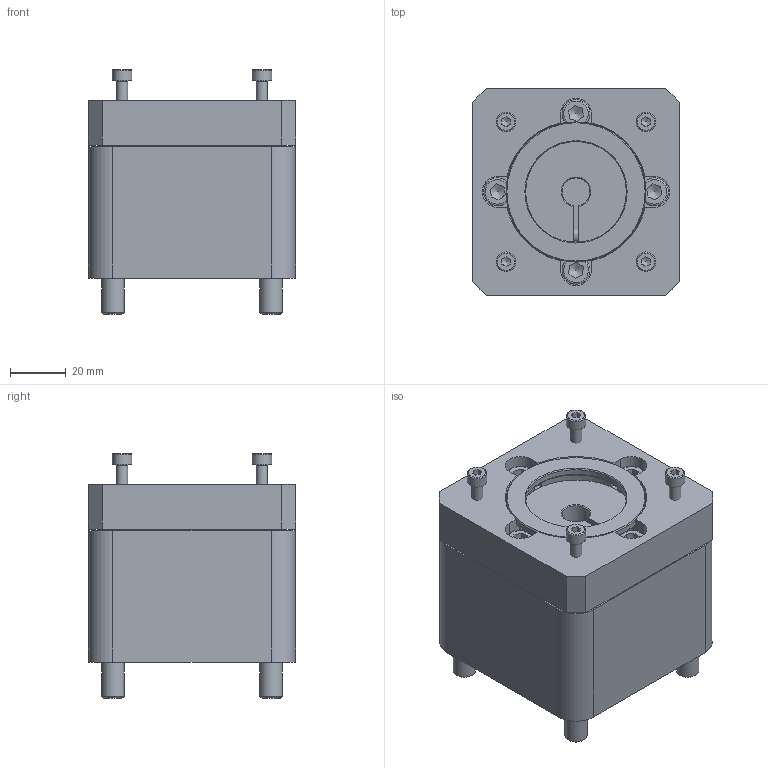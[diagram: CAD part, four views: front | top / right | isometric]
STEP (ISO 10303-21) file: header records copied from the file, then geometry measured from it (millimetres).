
FILE_DESCRIPTION(/* description */ ('EAMK-A O - Coupling housing'),/* implementation_level */ '2;1');
FILE_NAME(/* name */ 'C:\ホームページ用データ\\X2\307E305A30533053306B\X0\\J08131.stp',/* time_stamp */ '2015-04-08T14:26:56+09:00',/* author */ ('Cadenas PARTsolutions'),/* organization */ (''),/* preprocessor_version */ 'ST-DEVELOPER v15.2',/* originating_system */ 'Autodesk Inventor 2014',/* authorisation */ '');
FILE_SCHEMA (('AUTOMOTIVE_DESIGN { 1 0 10303 214 3 1 1 }'));
Length unit declared in the file: millimetre
Products named in the file (9): 552160_EAMK_A_D60_64_L51_1O_; DIN_912___M8x30_F_; 552160_EAMK_A_D60_64B; 1455666 EAMC-42-50-110-12; J08127; J08128; コピー版 JIS B 1176 - M6 x 15; コピー版 JIS B 1176 - M4 x 15; J08131
Bounding box: 74 x 74 x 87.5 mm (x, y, z)
Volume: 269504 mm3; surface area: 77647.8 mm2
Topology: 16 solids, 16 shells, 404 faces, 918 edges, 577 vertices
Faces by surface type: plane 207, cone 98, cylinder 80, torus 19
Full cylindrical faces by diameter (mm): 3.242 x4, 4 x4, 4.917 x4, 5 x4, 6 x4, 6.6 x4, 7 x4, 8 x4, 8.5 x2, 9 x4, 10 x4, 13 x4, 14 x4, 36 x1, 40 x2, 42 x1, 47 x1, 48 x1, 50 x1, 60 x1, 64 x2
Entity records: 6450 total; most frequent: CARTESIAN_POINT 1263, DIRECTION 1090, ORIENTED_EDGE 892, EDGE_CURVE 446, AXIS2_PLACEMENT_3D 444, EDGE_LOOP 363, VERTEX_POINT 329, ADVANCED_FACE 230
